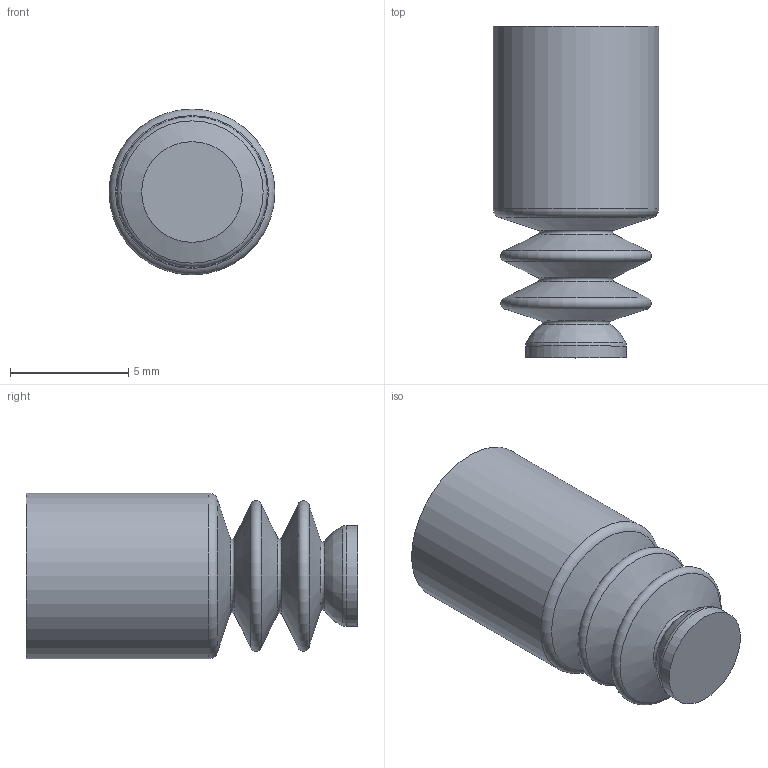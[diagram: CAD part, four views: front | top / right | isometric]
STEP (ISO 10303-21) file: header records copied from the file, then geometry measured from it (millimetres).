
FILE_DESCRIPTION(/* description */ (''),/* implementation_level */ '2;1');
FILE_NAME(/* name */ 'W:\Technik\Konstruktion\CAD-Daten\Vakuumsauger\21_\21.004.083\21.004.083_Kd neu.stp',/* time_stamp */ '2017-07-04T10:09:16+02:00',/* author */ ('DFloßmann'),/* organization */ (''),/* preprocessor_version */ 'ST-DEVELOPER v16.5',/* originating_system */ 'Autodesk Inventor 2017',/* authorisation */ '');
FILE_SCHEMA (('AUTOMOTIVE_DESIGN { 1 0 10303 214 3 1 1 }'));
Length unit declared in the file: millimetre
Products named in the file (1): 21.004.083_Kd neu
Bounding box: 7 x 14 x 7 mm (x, y, z)
Volume: 314.7 mm3; surface area: 498.4 mm2
Topology: 1 solids, 1 shells, 19 faces, 36 edges, 20 vertices
Faces by surface type: torus 7, cone 5, cylinder 3, plane 3, bspline 1
Full cylindrical faces by diameter (mm): 4 x1, 4.25 x1, 7 x1
Entity records: 450 total; most frequent: CARTESIAN_POINT 89, DIRECTION 78, ORIENTED_EDGE 42, AXIS2_PLACEMENT_3D 39, EDGE_LOOP 35, EDGE_CURVE 21, CIRCLE 20, VERTEX_POINT 20
